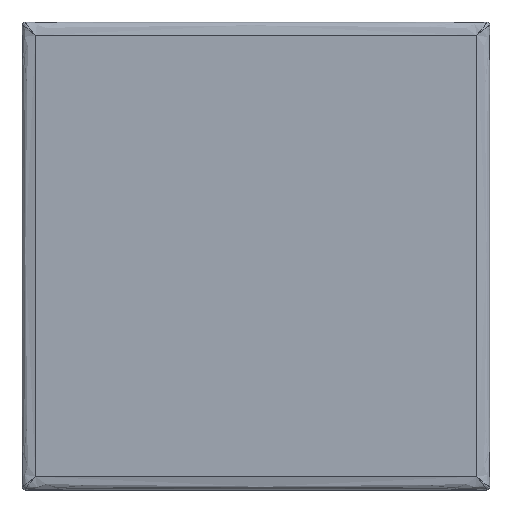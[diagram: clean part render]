
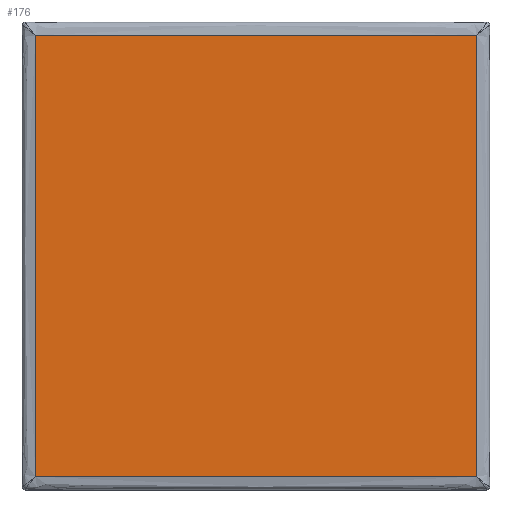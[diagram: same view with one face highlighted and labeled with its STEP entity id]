
A CAD part, top view. The second image highlights one B-rep face of the part: STEP entity #176.
In plain terms, the highlighted planar face has unit normal (0, 0, 1).
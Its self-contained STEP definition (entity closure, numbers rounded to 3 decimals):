
#176=ADVANCED_FACE('',(#350),#2184,.T.);
#350=FACE_OUTER_BOUND('',#528,.T.);
#528=EDGE_LOOP('',(#1014,#1015,#1016,#1017));
#1014=ORIENTED_EDGE('',*,*,#1477,.T.);
#1015=ORIENTED_EDGE('',*,*,#1471,.T.);
#1016=ORIENTED_EDGE('',*,*,#1468,.T.);
#1017=ORIENTED_EDGE('',*,*,#1490,.T.);
#1468=EDGE_CURVE('',#2098,#2099,#1922,.T.);
#1471=EDGE_CURVE('',#2100,#2098,#1925,.T.);
#1477=EDGE_CURVE('',#2101,#2100,#1931,.T.);
#1490=EDGE_CURVE('',#2099,#2101,#1944,.T.);
#1922=B_SPLINE_CURVE_WITH_KNOTS('',1,(#10455,#10456),.UNSPECIFIED.,.F.,
 .F.,(2,2),(-660.,0.),.UNSPECIFIED.);
#1925=B_SPLINE_CURVE_WITH_KNOTS('',1,(#10547,#10548),.UNSPECIFIED.,.F.,
 .F.,(2,2),(-660.,0.),.UNSPECIFIED.);
#1931=B_SPLINE_CURVE_WITH_KNOTS('',1,(#10775,#10776),.UNSPECIFIED.,.F.,
 .F.,(2,2),(-660.,0.),.UNSPECIFIED.);
#1944=B_SPLINE_CURVE_WITH_KNOTS('',1,(#11139,#11140),.UNSPECIFIED.,.F.,
 .F.,(2,2),(-660.,0.),.UNSPECIFIED.);
#2098=VERTEX_POINT('',#10415);
#2099=VERTEX_POINT('',#10416);
#2100=VERTEX_POINT('',#10417);
#2101=VERTEX_POINT('',#10418);
#2184=PLANE('',#2370);
#2370=AXIS2_PLACEMENT_3D('',#9461,#2406,$);
#2406=DIRECTION('',(0.,0.,1.));
#9461=CARTESIAN_POINT('',(-396.001,396.001,700.));
#10415=CARTESIAN_POINT('',(-330.,-330.,700.));
#10416=CARTESIAN_POINT('',(330.,-330.,700.));
#10417=CARTESIAN_POINT('',(-330.,330.,700.));
#10418=CARTESIAN_POINT('',(330.,330.,700.));
#10455=CARTESIAN_POINT('',(-330.,-330.,700.));
#10456=CARTESIAN_POINT('',(330.,-330.,700.));
#10547=CARTESIAN_POINT('',(-330.,330.,700.));
#10548=CARTESIAN_POINT('',(-330.,-330.,700.));
#10775=CARTESIAN_POINT('',(330.,330.,700.));
#10776=CARTESIAN_POINT('',(-330.,330.,700.));
#11139=CARTESIAN_POINT('',(330.,-330.,700.));
#11140=CARTESIAN_POINT('',(330.,330.,700.));
